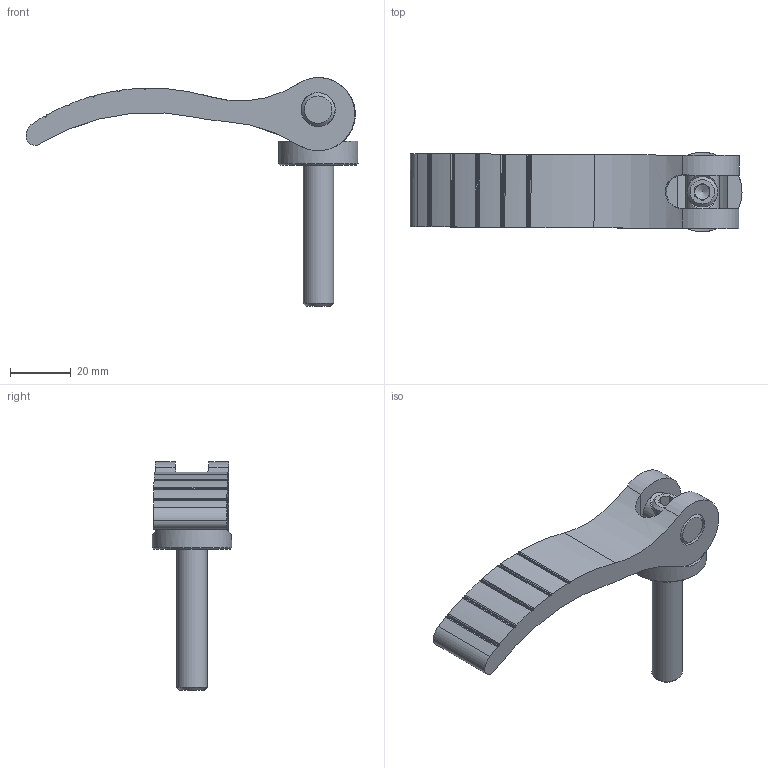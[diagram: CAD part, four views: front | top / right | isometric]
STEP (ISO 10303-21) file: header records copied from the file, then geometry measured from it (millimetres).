
FILE_DESCRIPTION(('STEP AP203'), '1');
FILE_NAME('À00360.111081025 _ Ýêñöåíòðèê 108 ìì', '', ('UNSPECIFIED'), ('UNSPECIFIED'), 'C3D Converter', 'C3D Toolkit', '');
FILE_SCHEMA(('CONFIG_CONTROL_DESIGN'));
Length unit declared in the file: millimetre
Products named in the file (5): А00360.108.03; А00360.108.02; А00360.108.01
Assembly tree (4 placements, depth 2):
  (unnamed)
    А00360.108.03
    А00360.108.02
    А00360.108.01
    (unnamed)
Bounding box: 108.87 x 26 x 74.97 mm (x, y, z)
Volume: 31242 mm3; surface area: 13677.4 mm2
Topology: 4 solids, 4 shells, 79 faces, 203 edges, 132 vertices
Faces by surface type: cylinder 38, plane 33, cone 6, bspline 2
Full cylindrical faces by diameter (mm): 8.376 x1, 10 x1, 10.5 x1, 11 x1, 11.2 x2, 26 x1
Entity records: 4407 total; most frequent: CARTESIAN_POINT 2238, DIRECTION 424, ORIENTED_EDGE 370, EDGE_CURVE 185, AXIS2_PLACEMENT_3D 168, VERTEX_POINT 129, EDGE_LOOP 102, LINE 88
